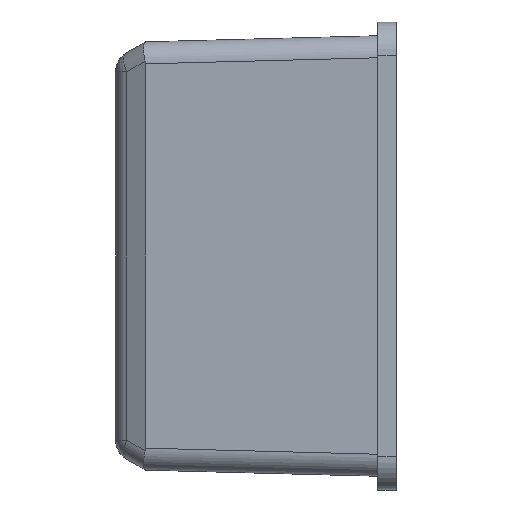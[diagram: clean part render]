
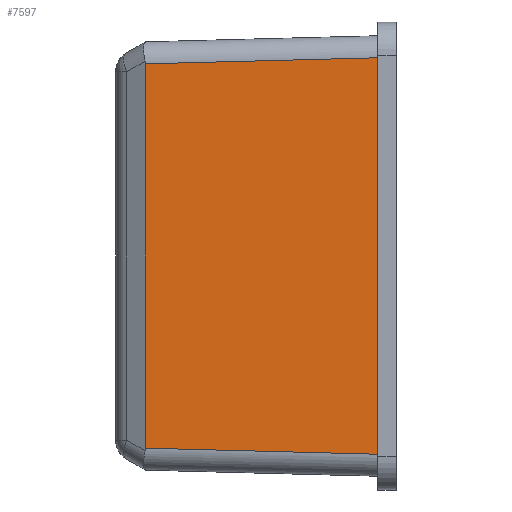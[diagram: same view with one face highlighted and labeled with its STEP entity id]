
A CAD part, left-side view. The second image highlights one B-rep face of the part: STEP entity #7597.
In plain terms, the highlighted planar face has unit normal (-1, 0.026, 0) as drawn and (-1, -0.026, 0) by its records, which use the part's own axes.
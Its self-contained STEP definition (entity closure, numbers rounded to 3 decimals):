
#783 = CARTESIAN_POINT ( 'NONE',  ( -28., 0., -18.001 ) ) ;
#1197 = ORIENTED_EDGE ( 'NONE', *, *, #7590, .T. ) ;
#1255 = ORIENTED_EDGE ( 'NONE', *, *, #4626, .T. ) ;
#1337 = LINE ( 'NONE', #6048, #7788 ) ;
#1846 = ORIENTED_EDGE ( 'NONE', *, *, #2407, .F. ) ;
#1883 = DIRECTION ( 'NONE',  ( 0., 0., 1. ) ) ;
#2015 = CARTESIAN_POINT ( 'NONE',  ( -28., 0., -20. ) ) ;
#2147 = VECTOR ( 'NONE', #6588, 1000. ) ;
#2338 = VECTOR ( 'NONE', #1883, 1000. ) ;
#2407 = EDGE_CURVE ( 'NONE', #4230, #7991, #6438, .T. ) ;
#2450 = DIRECTION ( 'NONE',  ( 0.026, -1., 0. ) ) ;
#2511 = DIRECTION ( 'NONE',  ( -1., -0.026, 0. ) ) ;
#2664 = PLANE ( 'NONE',  #3703 ) ;
#2687 = DIRECTION ( 'NONE',  ( -0.026, 0.999, 0.026 ) ) ;
#2857 = CARTESIAN_POINT ( 'NONE',  ( -27.974, -0.994, 17.975 ) ) ;
#2974 = CARTESIAN_POINT ( 'NONE',  ( -28., 0., -20. ) ) ;
#3136 = FACE_OUTER_BOUND ( 'NONE', #7587, .T. ) ;
#3703 = AXIS2_PLACEMENT_3D ( 'NONE', #2974, #2511, #2450 ) ;
#4230 = VERTEX_POINT ( 'NONE', #783 ) ;
#4626 = EDGE_CURVE ( 'NONE', #5460, #7468, #5580, .T. ) ;
#5031 = CARTESIAN_POINT ( 'NONE',  ( -27.448, -21.078, -17.449 ) ) ;
#5268 = VECTOR ( 'NONE', #2687, 1000. ) ;
#5460 = VERTEX_POINT ( 'NONE', #5031 ) ;
#5580 = LINE ( 'NONE', #6555, #2147 ) ;
#5648 = DIRECTION ( 'NONE',  ( 0.026, -0.999, 0.026 ) ) ;
#5940 = CARTESIAN_POINT ( 'NONE',  ( -27.448, -21.078, 17.449 ) ) ;
#6048 = CARTESIAN_POINT ( 'NONE',  ( -28.001, 0.052, -18.002 ) ) ;
#6358 = CARTESIAN_POINT ( 'NONE',  ( -28., 0., 18.001 ) ) ;
#6438 = LINE ( 'NONE', #2015, #2338 ) ;
#6555 = CARTESIAN_POINT ( 'NONE',  ( -27.448, -21.078, 19.377 ) ) ;
#6588 = DIRECTION ( 'NONE',  ( 0., 0., 1. ) ) ;
#7456 = EDGE_CURVE ( 'NONE', #4230, #5460, #1337, .T. ) ;
#7468 = VERTEX_POINT ( 'NONE', #5940 ) ;
#7587 = EDGE_LOOP ( 'NONE', ( #1255, #1197, #1846, #7633 ) ) ;
#7590 = EDGE_CURVE ( 'NONE', #7468, #7991, #8281, .T. ) ;
#7597 = ADVANCED_FACE ( 'NONE', ( #3136 ), #2664, .T. ) ;
#7633 = ORIENTED_EDGE ( 'NONE', *, *, #7456, .T. ) ;
#7788 = VECTOR ( 'NONE', #5648, 1000. ) ;
#7991 = VERTEX_POINT ( 'NONE', #6358 ) ;
#8281 = LINE ( 'NONE', #2857, #5268 ) ;
